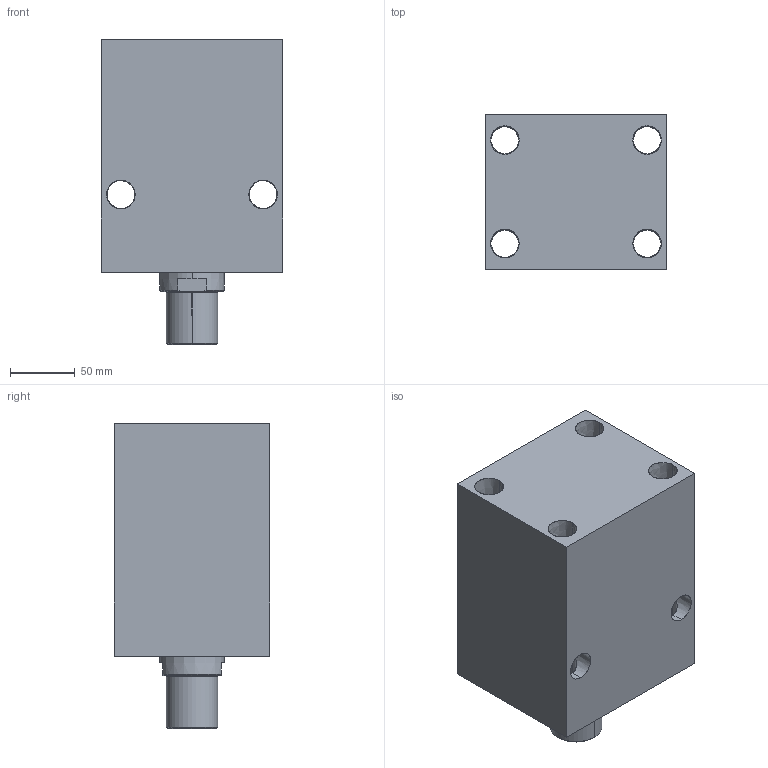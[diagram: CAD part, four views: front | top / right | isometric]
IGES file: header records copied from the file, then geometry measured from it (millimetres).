
Start section: SolidWorks IGES file using analytic representation for surfaces
Global section: file name: D:\karuppas\Clasp\3D model\Block cylinder B01C-Male thread - Copy\B01C-810M\Block cylinder B01C-810M.IGS; native system: SolidWorks 2017; preprocessor: SolidWorks 2017; author: pc; date: 220709.234807; units: millimetre
Bounding box: 140 x 120 x 236 mm (x, y, z)
Surface area: 222630.5 mm2 (no closed solid volume)
Topology: 0 solids, 0 shells, 360 faces, 5665 edges, 5661 vertices
Faces by surface type: bspline 306, revolution 54
